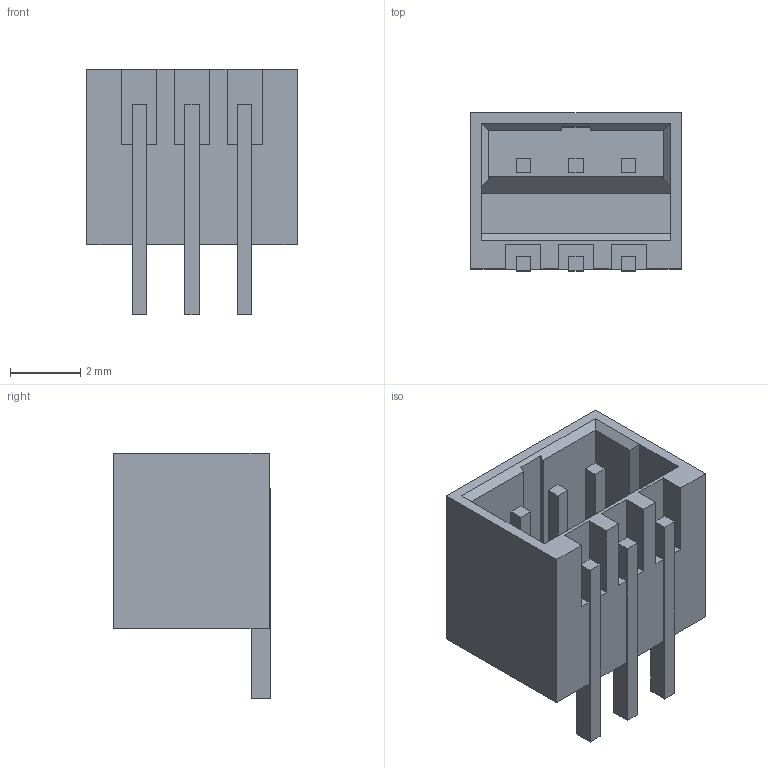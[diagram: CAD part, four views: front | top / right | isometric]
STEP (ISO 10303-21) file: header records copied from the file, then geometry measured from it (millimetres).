
FILE_DESCRIPTION((''),'2;1');
FILE_NAME('C-5-1775444-3','2019-01-15T00:10:01',('workeradm'),('TE Connectivity Ltd.'),'CREO PARAMETRIC BY PTC INC, 2018190','CREO PARAMETRIC BY PTC INC, 2018190','');
FILE_SCHEMA(('AUTOMOTIVE_DESIGN { 1 0 10303 214 1 1 1 1 }'));
Length unit declared in the file: millimetre
Products named in the file (1): C-5-1775444-3
Bounding box: 6 x 4.5 x 7 mm (x, y, z)
Volume: 78.2 mm3; surface area: 255.8 mm2
Topology: 1 solids, 1 shells, 76 faces, 206 edges, 136 vertices
Faces by surface type: plane 76
Entity records: 2382 total; most frequent: CARTESIAN_POINT 420, ORIENTED_EDGE 412, DIRECTION 358, VECTOR 206, LINE 206, EDGE_CURVE 206, VERTEX_POINT 136, EDGE_LOOP 80
